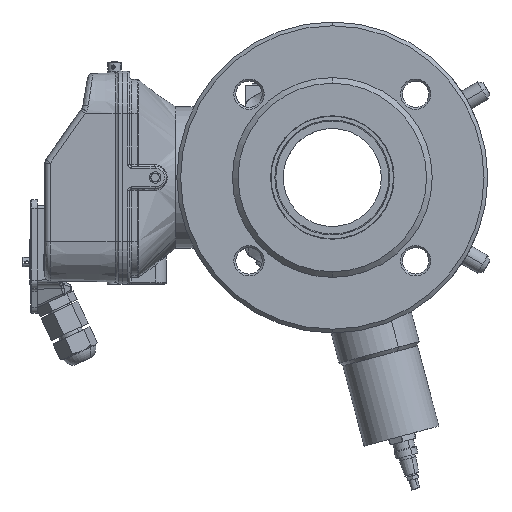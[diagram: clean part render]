
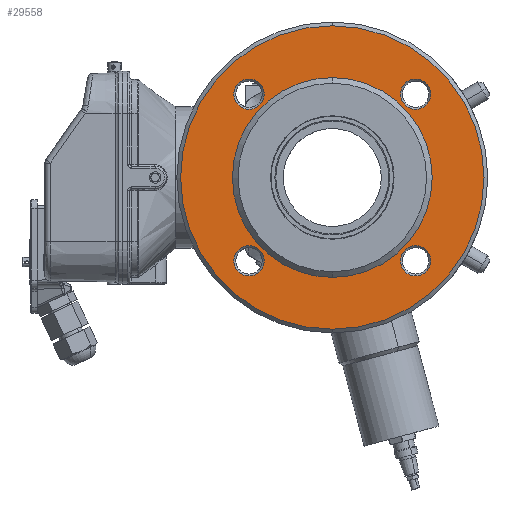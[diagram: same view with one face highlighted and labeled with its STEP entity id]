
A CAD part, left-side view. The second image highlights one B-rep face of the part: STEP entity #29558.
In plain terms, the highlighted planar face has unit normal (-1, 0, 0).
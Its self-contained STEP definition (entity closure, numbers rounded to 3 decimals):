
#1408 = PLANE ( 'NONE',  #38171 ) ;
#1848 = DIRECTION ( 'NONE',  ( 0., 0., -1. ) ) ;
#2879 = FACE_BOUND ( 'NONE', #28902, .T. ) ;
#3166 = DIRECTION ( 'NONE',  ( -1., 0., 0. ) ) ;
#4346 = EDGE_CURVE ( 'NONE', #44131, #44925, #13897, .T. ) ;
#6072 = VERTEX_POINT ( 'NONE', #6927 ) ;
#6710 = ORIENTED_EDGE ( 'NONE', *, *, #69432, .F. ) ;
#6927 = CARTESIAN_POINT ( 'NONE',  ( -81.156, 23.554, 216.669 ) ) ;
#6943 = DIRECTION ( 'NONE',  ( 0., 0., 1. ) ) ;
#7179 = CARTESIAN_POINT ( 'NONE',  ( -81.156, 23.554, 136.306 ) ) ;
#7389 = CARTESIAN_POINT ( 'NONE',  ( -81.156, 61.86, 180.5 ) ) ;
#7468 = CARTESIAN_POINT ( 'NONE',  ( -81.156, -20.64, 180.5 ) ) ;
#7691 = DIRECTION ( 'NONE',  ( -1., 0., 0. ) ) ;
#8126 = EDGE_CURVE ( 'NONE', #58163, #47426, #58660, .T. ) ;
#8998 = EDGE_CURVE ( 'NONE', #29539, #12912, #22253, .T. ) ;
#10029 = CIRCLE ( 'NONE', #38873, 53. ) ;
#10060 = CARTESIAN_POINT ( 'NONE',  ( -81.156, -20.64, 180.5 ) ) ;
#10174 = VERTEX_POINT ( 'NONE', #17061 ) ;
#11466 = AXIS2_PLACEMENT_3D ( 'NONE', #36299, #7691, #6943 ) ;
#11881 = CIRCLE ( 'NONE', #67102, 8.025 ) ;
#11911 = DIRECTION ( 'NONE',  ( -1., 0., 0. ) ) ;
#12134 = CARTESIAN_POINT ( 'NONE',  ( -81.156, -20.64, 180.5 ) ) ;
#12912 = VERTEX_POINT ( 'NONE', #67197 ) ;
#13138 = CIRCLE ( 'NONE', #55140, 80.5 ) ;
#13763 = CARTESIAN_POINT ( 'NONE',  ( -81.156, -64.834, 128.281 ) ) ;
#13897 = CIRCLE ( 'NONE', #60781, 80.5 ) ;
#14703 = ORIENTED_EDGE ( 'NONE', *, *, #67417, .T. ) ;
#17061 = CARTESIAN_POINT ( 'NONE',  ( -81.156, 23.554, 128.281 ) ) ;
#18301 = DIRECTION ( 'NONE',  ( 0., 0., 1. ) ) ;
#18844 = AXIS2_PLACEMENT_3D ( 'NONE', #74337, #11911, #18301 ) ;
#19031 = AXIS2_PLACEMENT_3D ( 'NONE', #40066, #62604, #62970 ) ;
#19761 = ORIENTED_EDGE ( 'NONE', *, *, #58201, .F. ) ;
#20497 = ORIENTED_EDGE ( 'NONE', *, *, #8126, .F. ) ;
#21522 = DIRECTION ( 'NONE',  ( -1., 0., 0. ) ) ;
#21918 = DIRECTION ( 'NONE',  ( 0., 0., 1. ) ) ;
#22015 = CARTESIAN_POINT ( 'NONE',  ( -81.156, 23.554, 136.306 ) ) ;
#22253 = CIRCLE ( 'NONE', #11466, 8.025 ) ;
#22803 = DIRECTION ( 'NONE',  ( 0., 0., -1. ) ) ;
#24911 = CARTESIAN_POINT ( 'NONE',  ( -81.156, -64.834, 232.719 ) ) ;
#25185 = DIRECTION ( 'NONE',  ( 0., 0., 1. ) ) ;
#25583 = CIRCLE ( 'NONE', #30434, 8.025 ) ;
#26184 = CIRCLE ( 'NONE', #62260, 8.025 ) ;
#28418 = EDGE_LOOP ( 'NONE', ( #6710, #43118 ) ) ;
#28902 = EDGE_LOOP ( 'NONE', ( #56980, #29623 ) ) ;
#29502 = VERTEX_POINT ( 'NONE', #58144 ) ;
#29539 = VERTEX_POINT ( 'NONE', #13763 ) ;
#29558 = ADVANCED_FACE ( 'NONE', ( #59624, #2879, #30691, #35984, #53613, #53977 ), #1408, .F. ) ;
#29623 = ORIENTED_EDGE ( 'NONE', *, *, #65508, .F. ) ;
#30235 = EDGE_CURVE ( 'NONE', #12912, #29539, #26184, .T. ) ;
#30434 = AXIS2_PLACEMENT_3D ( 'NONE', #22015, #50973, #73543 ) ;
#30691 = FACE_BOUND ( 'NONE', #55226, .T. ) ;
#31982 = EDGE_CURVE ( 'NONE', #44925, #44131, #13138, .T. ) ;
#33746 = CARTESIAN_POINT ( 'NONE',  ( -81.156, -20.64, 180.5 ) ) ;
#34500 = CARTESIAN_POINT ( 'NONE',  ( -81.156, -64.834, 216.669 ) ) ;
#34511 = CIRCLE ( 'NONE', #59712, 8.025 ) ;
#35984 = FACE_BOUND ( 'NONE', #28418, .T. ) ;
#36299 = CARTESIAN_POINT ( 'NONE',  ( -81.156, -64.834, 136.306 ) ) ;
#36781 = EDGE_CURVE ( 'NONE', #47042, #10174, #25583, .T. ) ;
#37508 = ORIENTED_EDGE ( 'NONE', *, *, #31982, .T. ) ;
#38103 = CIRCLE ( 'NONE', #68090, 53. ) ;
#38171 = AXIS2_PLACEMENT_3D ( 'NONE', #7389, #71656, #42724 ) ;
#38873 = AXIS2_PLACEMENT_3D ( 'NONE', #12134, #63655, #58006 ) ;
#39406 = DIRECTION ( 'NONE',  ( -1., 0., 0. ) ) ;
#40066 = CARTESIAN_POINT ( 'NONE',  ( -81.156, -64.834, 224.694 ) ) ;
#42551 = DIRECTION ( 'NONE',  ( 0., 0., 1. ) ) ;
#42724 = DIRECTION ( 'NONE',  ( 0., 0., -1. ) ) ;
#43118 = ORIENTED_EDGE ( 'NONE', *, *, #53738, .F. ) ;
#43365 = DIRECTION ( 'NONE',  ( 0., 0., 1. ) ) ;
#44131 = VERTEX_POINT ( 'NONE', #67979 ) ;
#44577 = CARTESIAN_POINT ( 'NONE',  ( -81.156, -20.64, 233.5 ) ) ;
#44920 = EDGE_CURVE ( 'NONE', #67616, #64776, #10029, .T. ) ;
#44925 = VERTEX_POINT ( 'NONE', #52368 ) ;
#47042 = VERTEX_POINT ( 'NONE', #66341 ) ;
#47426 = VERTEX_POINT ( 'NONE', #24911 ) ;
#47953 = ORIENTED_EDGE ( 'NONE', *, *, #30235, .F. ) ;
#48343 = ORIENTED_EDGE ( 'NONE', *, *, #4346, .T. ) ;
#48640 = CARTESIAN_POINT ( 'NONE',  ( -81.156, -64.834, 136.306 ) ) ;
#48906 = DIRECTION ( 'NONE',  ( -1., 0., 0. ) ) ;
#50973 = DIRECTION ( 'NONE',  ( -1., 0., 0. ) ) ;
#52368 = CARTESIAN_POINT ( 'NONE',  ( -81.156, -20.64, 261. ) ) ;
#52450 = CIRCLE ( 'NONE', #18844, 8.025 ) ;
#53613 = FACE_BOUND ( 'NONE', #62472, .T. ) ;
#53738 = EDGE_CURVE ( 'NONE', #6072, #29502, #71410, .T. ) ;
#53977 = FACE_BOUND ( 'NONE', #69573, .T. ) ;
#55140 = AXIS2_PLACEMENT_3D ( 'NONE', #10060, #39406, #57023 ) ;
#55226 = EDGE_LOOP ( 'NONE', ( #47953, #59036 ) ) ;
#56980 = ORIENTED_EDGE ( 'NONE', *, *, #36781, .F. ) ;
#57023 = DIRECTION ( 'NONE',  ( 0., 0., -1. ) ) ;
#58006 = DIRECTION ( 'NONE',  ( 0., 0., -1. ) ) ;
#58144 = CARTESIAN_POINT ( 'NONE',  ( -81.156, 23.554, 232.719 ) ) ;
#58163 = VERTEX_POINT ( 'NONE', #34500 ) ;
#58201 = EDGE_CURVE ( 'NONE', #47426, #58163, #52450, .T. ) ;
#58217 = DIRECTION ( 'NONE',  ( -1., 0., 0. ) ) ;
#58660 = CIRCLE ( 'NONE', #19031, 8.025 ) ;
#59036 = ORIENTED_EDGE ( 'NONE', *, *, #8998, .F. ) ;
#59624 = FACE_OUTER_BOUND ( 'NONE', #73172, .T. ) ;
#59712 = AXIS2_PLACEMENT_3D ( 'NONE', #7179, #69580, #25185 ) ;
#60608 = AXIS2_PLACEMENT_3D ( 'NONE', #65093, #48906, #42551 ) ;
#60781 = AXIS2_PLACEMENT_3D ( 'NONE', #7468, #58217, #1848 ) ;
#60886 = ORIENTED_EDGE ( 'NONE', *, *, #44920, .T. ) ;
#61066 = CARTESIAN_POINT ( 'NONE',  ( -81.156, -20.64, 127.5 ) ) ;
#62260 = AXIS2_PLACEMENT_3D ( 'NONE', #48640, #21522, #43365 ) ;
#62472 = EDGE_LOOP ( 'NONE', ( #14703, #60886 ) ) ;
#62604 = DIRECTION ( 'NONE',  ( -1., 0., 0. ) ) ;
#62970 = DIRECTION ( 'NONE',  ( 0., 0., 1. ) ) ;
#63049 = DIRECTION ( 'NONE',  ( 1., 0., 0. ) ) ;
#63655 = DIRECTION ( 'NONE',  ( 1., 0., 0. ) ) ;
#64776 = VERTEX_POINT ( 'NONE', #61066 ) ;
#65093 = CARTESIAN_POINT ( 'NONE',  ( -81.156, 23.554, 224.694 ) ) ;
#65508 = EDGE_CURVE ( 'NONE', #10174, #47042, #34511, .T. ) ;
#66341 = CARTESIAN_POINT ( 'NONE',  ( -81.156, 23.554, 144.331 ) ) ;
#67102 = AXIS2_PLACEMENT_3D ( 'NONE', #72700, #3166, #21918 ) ;
#67197 = CARTESIAN_POINT ( 'NONE',  ( -81.156, -64.834, 144.331 ) ) ;
#67417 = EDGE_CURVE ( 'NONE', #64776, #67616, #38103, .T. ) ;
#67616 = VERTEX_POINT ( 'NONE', #44577 ) ;
#67979 = CARTESIAN_POINT ( 'NONE',  ( -81.156, -20.64, 100. ) ) ;
#68090 = AXIS2_PLACEMENT_3D ( 'NONE', #33746, #63049, #22803 ) ;
#69432 = EDGE_CURVE ( 'NONE', #29502, #6072, #11881, .T. ) ;
#69573 = EDGE_LOOP ( 'NONE', ( #19761, #20497 ) ) ;
#69580 = DIRECTION ( 'NONE',  ( -1., 0., 0. ) ) ;
#71410 = CIRCLE ( 'NONE', #60608, 8.025 ) ;
#71656 = DIRECTION ( 'NONE',  ( 1., 0., 0. ) ) ;
#72700 = CARTESIAN_POINT ( 'NONE',  ( -81.156, 23.554, 224.694 ) ) ;
#73172 = EDGE_LOOP ( 'NONE', ( #48343, #37508 ) ) ;
#73543 = DIRECTION ( 'NONE',  ( 0., 0., 1. ) ) ;
#74337 = CARTESIAN_POINT ( 'NONE',  ( -81.156, -64.834, 224.694 ) ) ;
